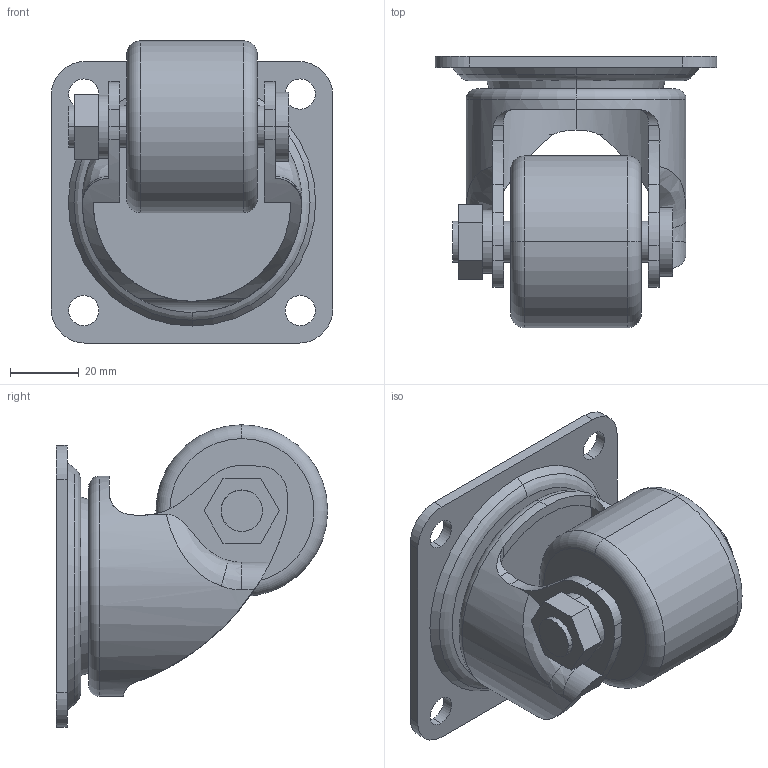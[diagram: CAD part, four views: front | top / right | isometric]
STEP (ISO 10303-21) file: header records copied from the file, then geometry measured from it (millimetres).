
FILE_DESCRIPTION (( 'STEP AP214' ), '1' );
FILE_NAME ('HSG-50PB.STEP', '2020-04-03T15:45:13', ( '' ), ( '' ), 'SwSTEP 2.0', 'SolidWorks 2019', '' );
FILE_SCHEMA (( 'AUTOMOTIVE_DESIGN' ));
Length unit declared in the file: millimetre
Products named in the file (7): M12 t7_nut; HSG-50PB_PartsB; M12 t3_SW; HSG-50PB_wheel; HSG_jiku; HSG-50PB; HSG_partsA
Assembly tree (6 placements, depth 2):
  HSG-50PB
    HSG-50PB_PartsB
    HSG_partsA
    HSG-50PB_wheel
    HSG_jiku
    M12 t3_SW
    M12 t7_nut
Bounding box: 82 x 79 x 88 mm (x, y, z)
Volume: 152762.9 mm3; surface area: 48938.4 mm2
Topology: 6 solids, 6 shells, 108 faces, 271 edges, 178 vertices
Faces by surface type: cylinder 54, plane 38, torus 8, bspline 4, cone 4
Entity records: 4127 total; most frequent: CARTESIAN_POINT 1170, DIRECTION 591, ORIENTED_EDGE 542, EDGE_CURVE 271, AXIS2_PLACEMENT_3D 235, VERTEX_POINT 178, EDGE_LOOP 129, CIRCLE 122
